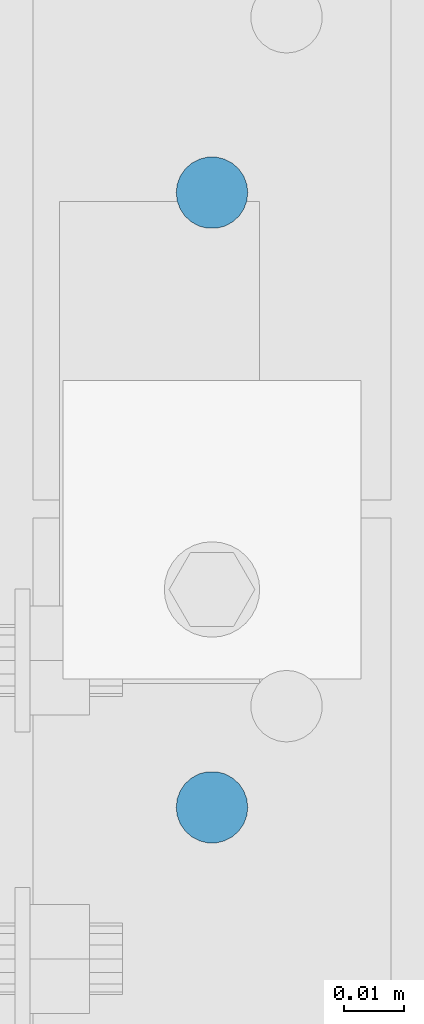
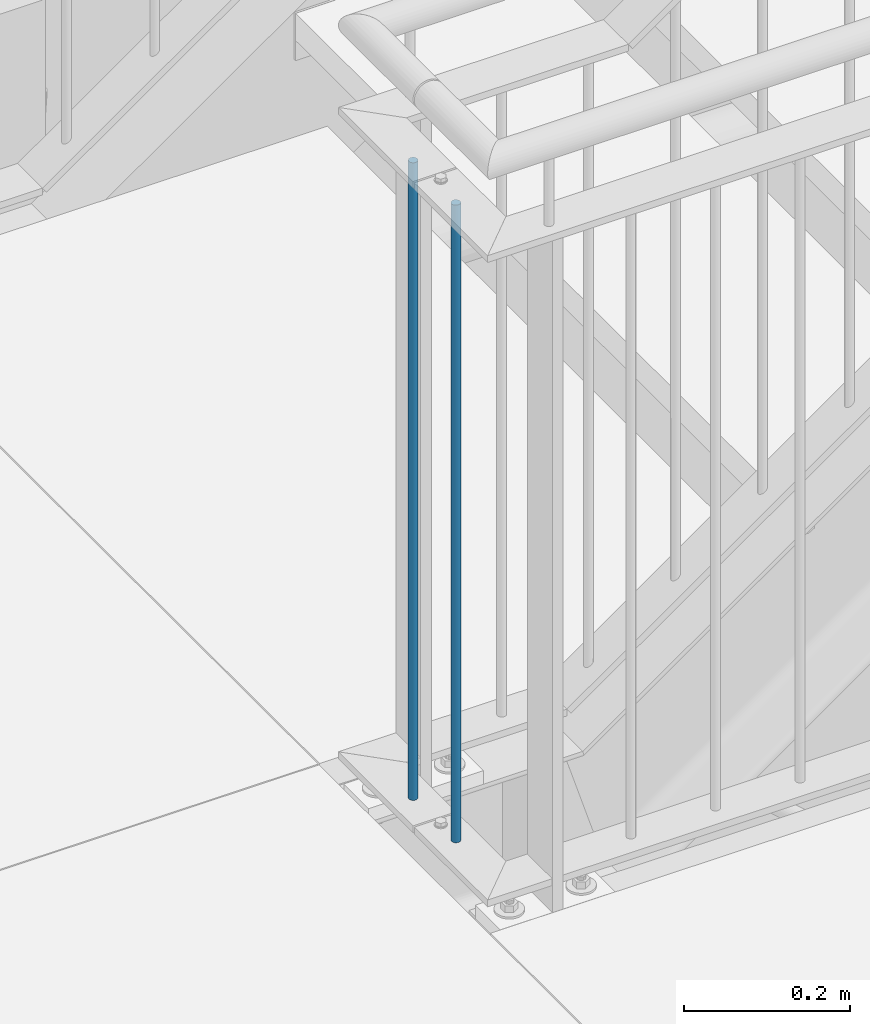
# One storey, part 21 of 825: 2 columns.
"""IFC2X3 building model written with IfcOpenShell, lengths in millimetres."""

from ifc_helpers import new_model, entity, si_unit, converted_unit, frame, origin, origin_with_axes, origin_2d, place, context, project, spatial, circle, extrude, material, element, save


model = new_model("IFC2X3")

# Units and contexts
model_context = context("Model", 3, precision=1e-09, world=origin_with_axes())
ifc_project = project(units=[si_unit("LENGTHUNIT", "METRE", prefix="MILLI"), si_unit("AREAUNIT", "SQUARE_METRE"), si_unit("VOLUMEUNIT", "CUBIC_METRE"), converted_unit("PLANEANGLEUNIT", "DEGREE", entity("IfcPlaneAngleMeasure", 0.01745329), si_unit("PLANEANGLEUNIT", "RADIAN"), dimensions=[0, 0, 0, 0, 0, 0, 0])], contexts=[model_context])

# Site, building, storey
site_placement = place(None, origin_with_axes())
site = spatial("IfcSite", under=ifc_project, at=site_placement, Name="Cnopf'sche Kinderklinik", CompositionType="ELEMENT")
building_placement = place(site_placement, origin_with_axes())
building = spatial("IfcBuilding", under=site, at=building_placement, Name="Struktur 1", CompositionType="ELEMENT")
storey_placement = place(building_placement, origin_with_axes())
storey = spatial("IfcBuildingStorey", under=building, at=storey_placement, Name="Default Storey", CompositionType="ELEMENT", Elevation=0.0)

# Columns
ifc_material = material(Name="S235JR")
for number, where, z_axis, x_axis, name in (
    (1, (4644.215455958, 5890.236971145, 4855.798924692), (0.0, 0.0, 1.0), (-1.0, 0.0, 0.0), "Railing_Picket_Stair#0"),
    (2, (4644.215455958, 5993.236971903, 4855.798924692), (0.0, 0.0, 1.0), (-1.0, 0.0, 0.0), "Railing_Picket_Stair#0"),
):
    element("IfcColumn", number, at=place(None, frame(where, z_axis=z_axis, x_axis=x_axis)), inside=storey, material=ifc_material, Name=name, ObjectType="Railing_Picket_Stair#0", context=model_context, shape_type="SweptSolid", body=[
        extrude(circle(Radius=6.0, at=origin_2d()), origin(), (0.0, 0.0, -1.0), 938.8),
    ])

save(model, "model.ifc")
